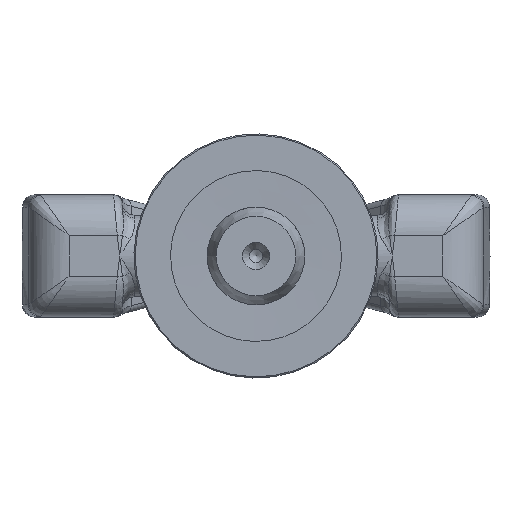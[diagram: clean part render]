
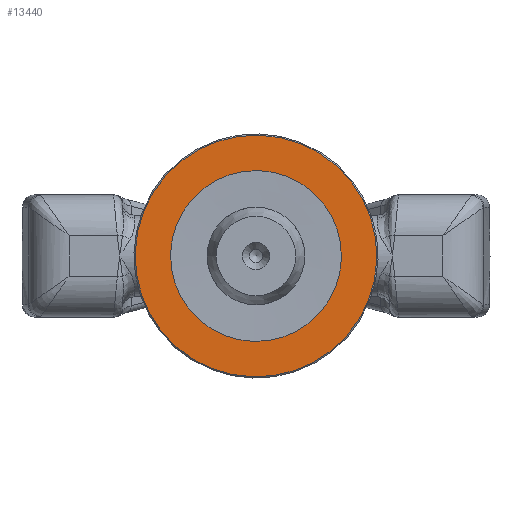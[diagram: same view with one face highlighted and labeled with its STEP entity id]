
A CAD part, front view. The second image highlights one B-rep face of the part: STEP entity #13440.
In plain terms, the highlighted planar face has unit normal (0, -1, 0) as drawn and (0, 0, -1) by its records, which use the part's own axes.
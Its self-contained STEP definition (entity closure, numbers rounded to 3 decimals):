
#304=FACE_BOUND('',#4270,.T.);
#717=PLANE('',#14508);
#3410=FACE_OUTER_BOUND('',#4269,.T.);
#4269=EDGE_LOOP('',(#12634));
#4270=EDGE_LOOP('',(#12635));
#4645=CIRCLE('',#14505,29.7);
#4647=CIRCLE('',#14509,21.);
#6611=VERTEX_POINT('',#44750);
#6613=VERTEX_POINT('',#44756);
#8622=EDGE_CURVE('',#6611,#6611,#4645,.T.);
#8624=EDGE_CURVE('',#6613,#6613,#4647,.T.);
#12634=ORIENTED_EDGE('',*,*,#8622,.F.);
#12635=ORIENTED_EDGE('',*,*,#8624,.F.);
#13440=ADVANCED_FACE('',(#3410,#304),#717,.F.);
#14505=AXIS2_PLACEMENT_3D('',#44751,#17239,#17240);
#14508=AXIS2_PLACEMENT_3D('',#44755,#17245,#17246);
#14509=AXIS2_PLACEMENT_3D('',#44757,#17247,#17248);
#17239=DIRECTION('center_axis',(0.,0.,1.));
#17240=DIRECTION('ref_axis',(-1.,0.,0.));
#17245=DIRECTION('center_axis',(0.,0.,1.));
#17246=DIRECTION('ref_axis',(1.,0.,0.));
#17247=DIRECTION('center_axis',(0.,0.,-1.));
#17248=DIRECTION('ref_axis',(-1.,0.,0.));
#44750=CARTESIAN_POINT('',(29.7,0.,0.));
#44751=CARTESIAN_POINT('Origin',(0.,0.,0.));
#44755=CARTESIAN_POINT('Origin',(0.,0.,0.));
#44756=CARTESIAN_POINT('',(21.,0.,0.));
#44757=CARTESIAN_POINT('Origin',(0.,0.,0.));
